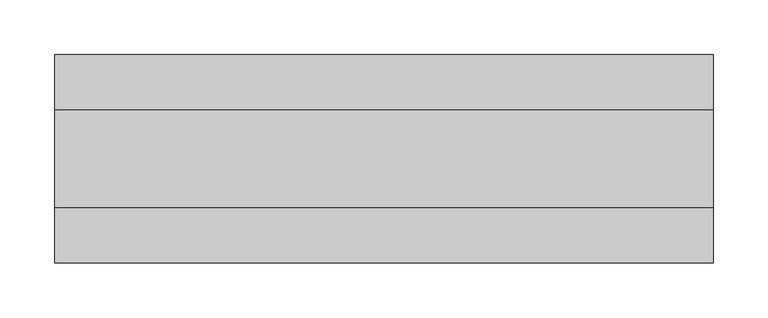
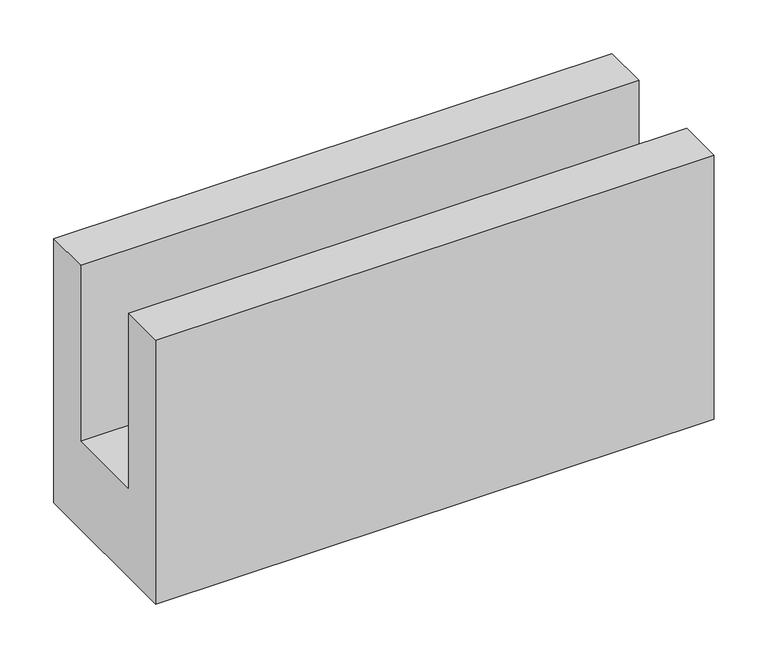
"""IFC4 building model written with IfcOpenShell, lengths in millimetres: proxy geometry, Módulo U de Concreto Celular - Celucon : MUCC 19x30x60cm (L x A x C)."""

from ifc_helpers import new_model, si_unit, frame, origin, place, context, project, spatial, polyline, outline, extrude, source, transform, mapped, element, save


def generic_models_87ead979(model_context):
    return source(origin(), model_context, "Body", "SweptSolid", [
        extrude(outline(polyline([(95.0, 0.0), (-95.0, 0.0), (-95.0, 300.0), (-45.0, 300.0), (-45.0, 100.0), (45.0, 100.0), (45.0, 300.0), (95.0, 300.0), (95.0, 0.0)])), frame((-300.0, 0.0, 0.0), z_axis=(1.0, 0.0, 0.0), x_axis=(0.0, 1.0, 0.0)), (0.0, 0.0, 1.0), 600.0),
    ])


if __name__ == "__main__":
    model = new_model("IFC4")
    model_context = context("Model", 3, world=origin())
    ifc_project = project(units=[si_unit("LENGTHUNIT", "METRE", prefix="MILLI")], contexts=[model_context])
    site = spatial("IfcSite", under=ifc_project)
    building = spatial("IfcBuilding", under=site)
    placement = place(None, origin())
    generic_models_shape = generic_models_87ead979(model_context)
    element("IfcBuildingElementProxy", 1, Name="Módulo U de Concreto Celular - Celucon : MUCC 19x30x60cm (L x A x C)", ObjectType="Módulo U de Concreto Celular - Celucon : MUCC 19x30x60cm (L x A x C)", at=placement, inside=building, context=model_context, shape_type="MappedRepresentation", body=[
        mapped(generic_models_shape, transform((0.0, 0.0, 0.0), x_axis=(1.0, 0.0, 0.0), y_axis=(0.0, 1.0, 0.0), z_axis=(0.0, 0.0, 1.0))),
    ])
    save(model, "model.ifc")
